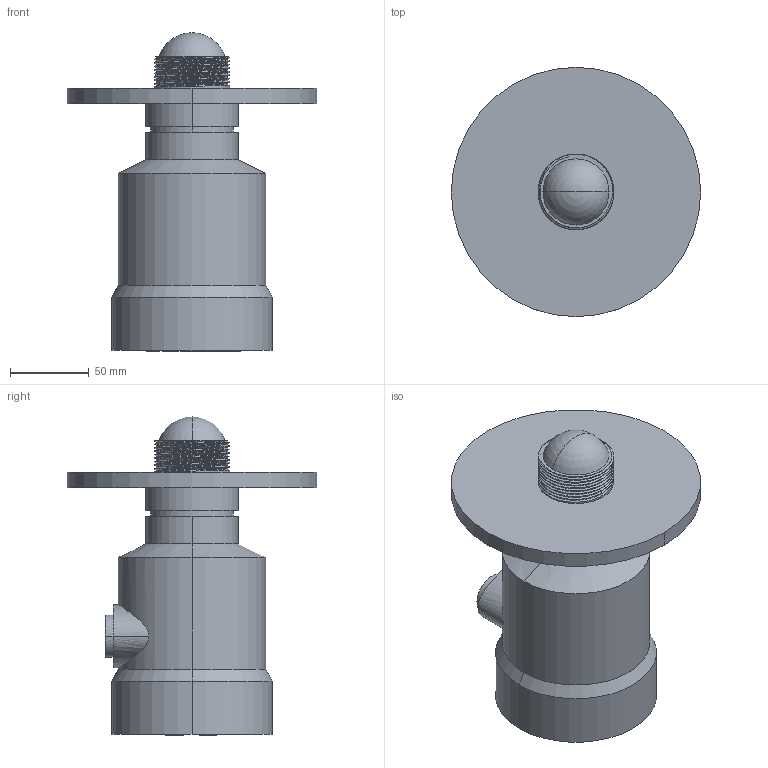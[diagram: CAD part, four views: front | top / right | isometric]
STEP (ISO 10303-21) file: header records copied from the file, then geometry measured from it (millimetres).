
FILE_DESCRIPTION((''),'2;1');
FILE_NAME('ASM0002_ASM','2025-12-26T14:40:34',('28740194'),(''),'CREO PARAMETRIC BY PTC INC, 2024063','CREO PARAMETRIC BY PTC INC, 2024063','');
FILE_SCHEMA(('CONFIG_CONTROL_DESIGN'));
Length unit declared in the file: millimetre
Products named in the file (4): 00; 802; 0002; ASM0002_ASM
Assembly tree (3 placements, depth 2):
  ASM0002_ASM
    00
    802
    0002
Bounding box: 158.02 x 158.02 x 201.81 mm (x, y, z)
Volume: 1211410.5 mm3; surface area: 112632.8 mm2
Topology: 3 solids, 3 shells, 399 faces, 1098 edges, 727 vertices
Faces by surface type: plane 345, cylinder 36, bspline 10, cone 4, extrusion 2, sphere 2
Entity records: 15867 total; most frequent: CARTESIAN_POINT 5694, ORIENTED_EDGE 2192, DIRECTION 1880, EDGE_CURVE 1096, VECTOR 1000, LINE 998, VERTEX_POINT 727, AXIS2_PLACEMENT_3D 440
